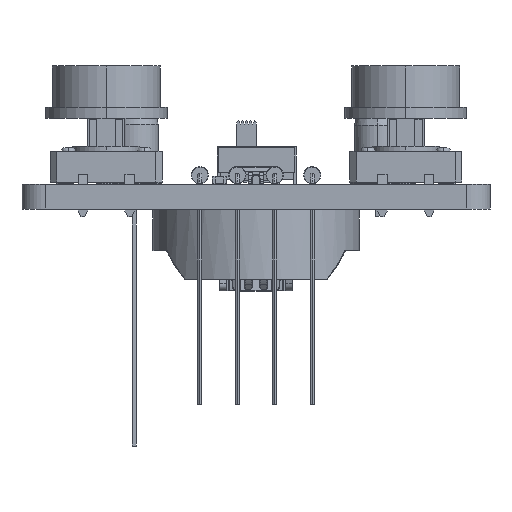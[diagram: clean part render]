
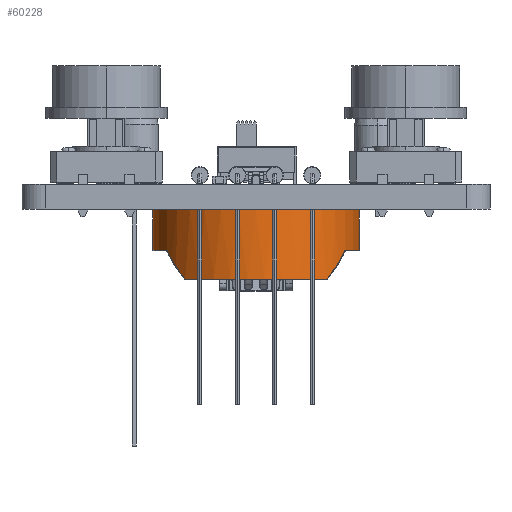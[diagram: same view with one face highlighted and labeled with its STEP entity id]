
A CAD part, left-side view. The second image highlights one B-rep face of the part: STEP entity #60228.
In plain terms, the highlighted cylindrical face has radius 11.05 mm (diameter 22.1 mm), a partial arc.
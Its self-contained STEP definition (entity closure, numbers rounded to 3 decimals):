
#48847 = VERTEX_POINT('',#48848);
#48848 = CARTESIAN_POINT('',(-18.239,-9.556,4.35));
#49095 = EDGE_CURVE('',#48847,#49096,#49098,.T.);
#49096 = VERTEX_POINT('',#49097);
#49097 = CARTESIAN_POINT('',(-7.189,-9.583,4.35));
#49098 = CIRCLE('',#49099,11.05);
#49099 = AXIS2_PLACEMENT_3D('',#49100,#49101,#49102);
#49100 = CARTESIAN_POINT('',(-12.69,0.,4.35));
#49101 = DIRECTION('',(0.,0.,1.));
#49102 = DIRECTION('',(1.,0.,-0.));
#49290 = VERTEX_POINT('',#49291);
#49291 = CARTESIAN_POINT('',(-7.141,9.556,4.35));
#49326 = EDGE_CURVE('',#49327,#49290,#49329,.T.);
#49327 = VERTEX_POINT('',#49328);
#49328 = CARTESIAN_POINT('',(-4.63,7.559,7.45));
#49329 = ELLIPSE('',#49330,17.554,11.05);
#49330 = AXIS2_PLACEMENT_3D('',#49331,#49332,#49333);
#49331 = CARTESIAN_POINT('',(-12.69,0.,-2.5));
#49332 = DIRECTION('',(-0.777,0.,0.629));
#49333 = DIRECTION('',(0.629,0.,0.777));
#49980 = VERTEX_POINT('',#49981);
#49981 = CARTESIAN_POINT('',(-20.75,-7.559,7.45));
#50006 = VERTEX_POINT('',#50007);
#50007 = CARTESIAN_POINT('',(-20.75,7.559,7.45));
#50039 = EDGE_CURVE('',#50006,#49980,#50040,.T.);
#50040 = CIRCLE('',#50041,11.05);
#50041 = AXIS2_PLACEMENT_3D('',#50042,#50043,#50044);
#50042 = CARTESIAN_POINT('',(-12.69,0.,7.45));
#50043 = DIRECTION('',(0.,0.,1.));
#50044 = DIRECTION('',(-1.,0.,0.));
#50085 = VERTEX_POINT('',#50086);
#50086 = CARTESIAN_POINT('',(-18.191,9.583,4.35));
#50105 = VERTEX_POINT('',#50106);
#50106 = CARTESIAN_POINT('',(-18.269,9.538,
    4.387));
#50113 = EDGE_CURVE('',#50085,#50105,#50114,.T.);
#50114 = B_SPLINE_CURVE_WITH_KNOTS('',3,(#50115,#50116,#50117,#50118),
  .UNSPECIFIED.,.F.,.F.,(4,4),(-0.01,0.),
  .PIECEWISE_BEZIER_KNOTS.);
#50115 = CARTESIAN_POINT('',(-18.191,9.583,4.35));
#50116 = CARTESIAN_POINT('',(-18.22,9.567,4.35));
#50117 = CARTESIAN_POINT('',(-18.249,9.55,
    4.363));
#50118 = CARTESIAN_POINT('',(-18.269,9.538,
    4.387));
#50156 = EDGE_CURVE('',#50105,#50006,#50157,.T.);
#50157 = ELLIPSE('',#50158,17.554,11.05);
#50158 = AXIS2_PLACEMENT_3D('',#50159,#50160,#50161);
#50159 = CARTESIAN_POINT('',(-12.69,0.,-2.5));
#50160 = DIRECTION('',(0.777,0.,0.629));
#50161 = DIRECTION('',(-0.629,0.,0.777));
#50318 = EDGE_CURVE('',#49290,#50085,#50319,.T.);
#50319 = CIRCLE('',#50320,11.05);
#50320 = AXIS2_PLACEMENT_3D('',#50321,#50322,#50323);
#50321 = CARTESIAN_POINT('',(-12.69,0.,4.35));
#50322 = DIRECTION('',(0.,0.,1.));
#50323 = DIRECTION('',(0.005,1.,-0.));
#50342 = EDGE_CURVE('',#49980,#48847,#50343,.T.);
#50343 = ELLIPSE('',#50344,17.554,11.05);
#50344 = AXIS2_PLACEMENT_3D('',#50345,#50346,#50347);
#50345 = CARTESIAN_POINT('',(-12.69,0.,-2.5));
#50346 = DIRECTION('',(0.777,0.,0.629));
#50347 = DIRECTION('',(-0.629,0.,0.777));
#52214 = VERTEX_POINT('',#52215);
#52215 = CARTESIAN_POINT('',(-7.111,-9.538,
    4.387));
#52222 = EDGE_CURVE('',#49096,#52214,#52223,.T.);
#52223 = B_SPLINE_CURVE_WITH_KNOTS('',3,(#52224,#52225,#52226,#52227),
  .UNSPECIFIED.,.F.,.F.,(4,4),(-0.01,0.),
  .PIECEWISE_BEZIER_KNOTS.);
#52224 = CARTESIAN_POINT('',(-7.189,-9.583,4.35));
#52225 = CARTESIAN_POINT('',(-7.16,-9.567,4.35));
#52226 = CARTESIAN_POINT('',(-7.131,-9.55,
    4.363));
#52227 = CARTESIAN_POINT('',(-7.111,-9.538,
    4.387));
#52265 = EDGE_CURVE('',#52214,#52266,#52268,.T.);
#52266 = VERTEX_POINT('',#52267);
#52267 = CARTESIAN_POINT('',(-4.63,-7.559,7.45));
#52268 = ELLIPSE('',#52269,17.554,11.05);
#52269 = AXIS2_PLACEMENT_3D('',#52270,#52271,#52272);
#52270 = CARTESIAN_POINT('',(-12.69,0.,-2.5));
#52271 = DIRECTION('',(-0.777,0.,0.629));
#52272 = DIRECTION('',(0.629,0.,0.777));
#52736 = VERTEX_POINT('',#52737);
#52737 = CARTESIAN_POINT('',(-2.382,-3.982,7.45));
#52836 = VERTEX_POINT('',#52837);
#52837 = CARTESIAN_POINT('',(-2.382,3.982,7.45));
#52983 = EDGE_CURVE('',#52836,#49327,#52984,.T.);
#52984 = CIRCLE('',#52985,11.05);
#52985 = AXIS2_PLACEMENT_3D('',#52986,#52987,#52988);
#52986 = CARTESIAN_POINT('',(-12.69,0.,7.45));
#52987 = DIRECTION('',(0.,0.,1.));
#52988 = DIRECTION('',(0.845,0.535,0.)
  );
#53218 = EDGE_CURVE('',#52266,#52736,#53219,.T.);
#53219 = CIRCLE('',#53220,11.05);
#53220 = AXIS2_PLACEMENT_3D('',#53221,#53222,#53223);
#53221 = CARTESIAN_POINT('',(-12.69,0.,7.45));
#53222 = DIRECTION('',(0.,0.,1.));
#53223 = DIRECTION('',(0.845,-0.535,0.
    ));
#58772 = VERTEX_POINT('',#58773);
#58773 = CARTESIAN_POINT('',(-2.382,-3.982,0.05));
#58805 = VERTEX_POINT('',#58806);
#58806 = CARTESIAN_POINT('',(-2.382,3.982,0.05));
#58836 = EDGE_CURVE('',#58772,#58805,#58837,.T.);
#58837 = CIRCLE('',#58838,11.05);
#58838 = AXIS2_PLACEMENT_3D('',#58839,#58840,#58841);
#58839 = CARTESIAN_POINT('',(-12.69,0.,0.05));
#58840 = DIRECTION('',(0.,0.,-1.));
#58841 = DIRECTION('',(-1.,0.,0.));
#58853 = EDGE_CURVE('',#58805,#52836,#58854,.T.);
#58854 = LINE('',#58855,#58856);
#58855 = CARTESIAN_POINT('',(-2.382,3.982,0.));
#58856 = VECTOR('',#58857,1.);
#58857 = DIRECTION('',(0.,0.,1.));
#58896 = EDGE_CURVE('',#52736,#58772,#58897,.T.);
#58897 = LINE('',#58898,#58899);
#58898 = CARTESIAN_POINT('',(-2.382,-3.982,0.));
#58899 = VECTOR('',#58900,1.);
#58900 = DIRECTION('',(0.,0.,-1.));
#60228 = ADVANCED_FACE('',(#60229),#60245,.T.);
#60229 = FACE_BOUND('',#60230,.T.);
#60230 = EDGE_LOOP('',(#60231,#60232,#60233,#60234,#60235,#60236,#60237,
    #60238,#60239,#60240,#60241,#60242,#60243,#60244));
#60231 = ORIENTED_EDGE('',*,*,#49326,.F.);
#60232 = ORIENTED_EDGE('',*,*,#52983,.F.);
#60233 = ORIENTED_EDGE('',*,*,#58853,.F.);
#60234 = ORIENTED_EDGE('',*,*,#58836,.F.);
#60235 = ORIENTED_EDGE('',*,*,#58896,.F.);
#60236 = ORIENTED_EDGE('',*,*,#53218,.F.);
#60237 = ORIENTED_EDGE('',*,*,#52265,.F.);
#60238 = ORIENTED_EDGE('',*,*,#52222,.F.);
#60239 = ORIENTED_EDGE('',*,*,#49095,.F.);
#60240 = ORIENTED_EDGE('',*,*,#50342,.F.);
#60241 = ORIENTED_EDGE('',*,*,#50039,.F.);
#60242 = ORIENTED_EDGE('',*,*,#50156,.F.);
#60243 = ORIENTED_EDGE('',*,*,#50113,.F.);
#60244 = ORIENTED_EDGE('',*,*,#50318,.F.);
#60245 = CYLINDRICAL_SURFACE('',#60246,11.05);
#60246 = AXIS2_PLACEMENT_3D('',#60247,#60248,#60249);
#60247 = CARTESIAN_POINT('',(-12.69,0.,0.));
#60248 = DIRECTION('',(0.,0.,1.));
#60249 = DIRECTION('',(-1.,0.,0.));
